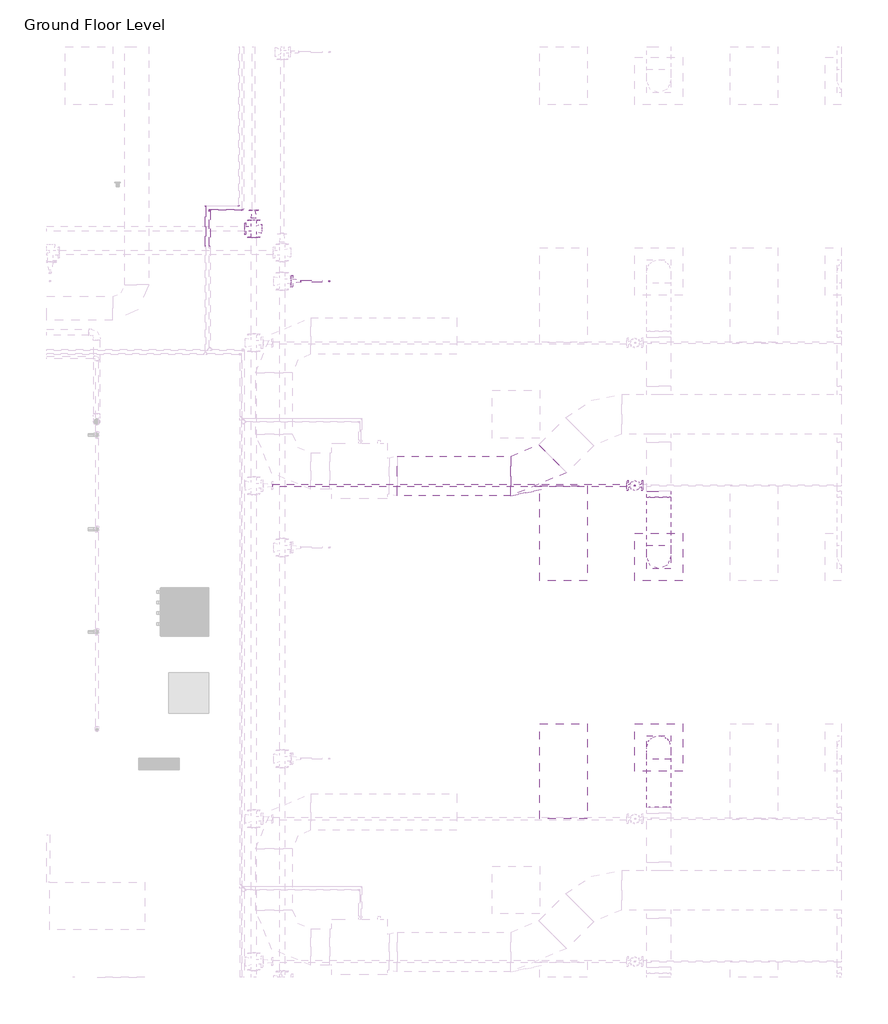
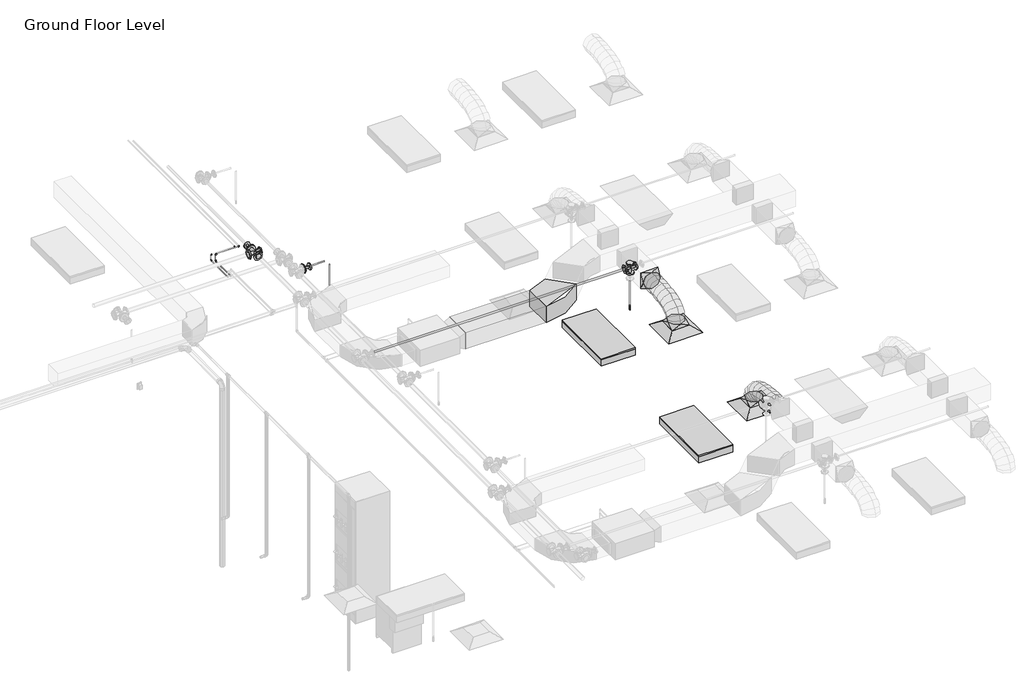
# One storey, part 68 of 74: 10 pipe fittings, 9 pipe segments, 4 duct fittings, 3 duct segments, 2 air terminals, 2 fire suppression terminals, 2 light fixtures.
"""IFC4 building model written with IfcOpenShell, lengths in millimetres."""

from ifc_helpers import new_model, si_unit, point, frame, frame_2d, origin, place, context, project, spatial, polyline, circle_curve, ellipse_curve, trimmed, segment, composite_curve, outline, extrude, transform, mapped, element, save
from ifc_brep_helpers import plane_surface, cylinder_surface, advanced_brep
from components import m_return_diffuser_600_x_600_face_300_x_300_connection_ff221211, m_rectangular_elbow_radius_1_5_w_acc56c25, m_rectangular_to_round_transition_angle_45_degree_641efff0, m_sprinkler_dry_pendent_hosted_15_mm_dry_pendent_9bda8e11, m_sprinkler_pendent_15_mm_pendent_06fcbd8e, m_troffer_light_parabolic_rectangular1_0600x1200mm_4_lamp_86473d4a, m_elbow_generic_standard_a088f956, m_elbow_generic_standard_2a704253, m_reducer_flanged_cs_class_150_standard_9dfe9ec5, m_reducer_flanged_cs_class_150_standard_a7631c35, m_tee_round_base_flanged_cs_class_150_standard_dd767e04, m_tee_round_base_flanged_cs_class_150_standard_7e5987a1

model = new_model("IFC4")

# Units and contexts
model_context = context("Model", 3, world=origin())
ifc_project = project(units=[si_unit("LENGTHUNIT", "METRE", prefix="MILLI")], contexts=[model_context])

# Site, building, storey
site = spatial("IfcSite", under=ifc_project)
building = spatial("IfcBuilding", under=site)
storey = spatial("IfcBuildingStorey", under=building, Name="Ground Floor Level", Elevation=900.0)

# Air terminals
placement = place(None, origin())
m_return_diffuser_600_x_600_face_300_x_300_connection_shape = m_return_diffuser_600_x_600_face_300_x_300_connection_ff221211(model_context)
element("IfcAirTerminal", 1, ObjectType="M_Supply Diffuser : 600 x 600 Face 300 x 300 Connection", at=placement, inside=storey, context=model_context, shape_type="MappedRepresentation", body=[
    mapped(m_return_diffuser_600_x_600_face_300_x_300_connection_shape, transform((10742.7672395, 10935.2153534, 3650.0), x_axis=(1.0, 0.0, 0.0), y_axis=(0.0, 1.0, 0.0), z_axis=(0.0, 0.0, 1.0))),
])
element("IfcAirTerminal", 2, ObjectType="M_Supply Diffuser : 600 x 600 Face 300 x 300 Connection", at=placement, inside=storey, context=model_context, shape_type="MappedRepresentation", body=[
    mapped(m_return_diffuser_600_x_600_face_300_x_300_connection_shape, transform((10742.7672395, 8535.2153534, 3650.0), x_axis=(1.0, 0.0, 0.0), y_axis=(0.0, 1.0, 0.0), z_axis=(0.0, 0.0, 1.0))),
])

# Duct fittings
m_rectangular_elbow_radius_1_5_w_shape = m_rectangular_elbow_radius_1_5_w_acc56c25(model_context)
element("IfcDuctFitting", 3, ObjectType="M_Rectangular Elbow - Radius : 1.5 W", at=placement, inside=storey, context=model_context, shape_type="MappedRepresentation", body=[
    mapped(m_rectangular_elbow_radius_1_5_w_shape, transform((9187.6927358, 11956.1779527, 4100.0047224), x_axis=(0.9999999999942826, 0.0, -3.3815582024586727e-06), y_axis=(-9.063610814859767e-12, 0.9999999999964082, -2.680306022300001e-06), z_axis=(3.3815582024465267e-06, 2.6803060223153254e-06, 0.9999999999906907))),
])
m_rectangular_to_round_transition_angle_45_degree_shape = m_rectangular_to_round_transition_angle_45_degree_641efff0(model_context)
element("IfcDuctFitting", 4, ObjectType="M_Rectangular to Round Transition - Angle : 45 Degree", at=placement, inside=storey, context=model_context, shape_type="MappedRepresentation", body=[
    mapped(m_rectangular_to_round_transition_angle_45_degree_shape, transform((10742.7672395, 8535.2153534, 3751.6), x_axis=(0.0, 0.0, 1.0), y_axis=(-1.0, 0.0, 0.0), z_axis=(0.0, -1.0, 0.0))),
])
element("IfcDuctFitting", 5, ObjectType="M_Rectangular to Round Transition - Angle : 45 Degree", at=placement, inside=storey, context=model_context, shape_type="MappedRepresentation", body=[
    mapped(m_rectangular_to_round_transition_angle_45_degree_shape, transform((10742.7672395, 10935.2153534, 3751.6), x_axis=(0.0, 0.0, 1.0), y_axis=(-1.0, 0.0, 0.0), z_axis=(0.0, -1.0, 0.0))),
])
element("IfcDuctFitting", 6, ObjectType="M_Rectangular to Round Transition - Angle : 45 Degree", at=placement, inside=storey, context=model_context, shape_type="MappedRepresentation", body=[
    mapped(m_rectangular_to_round_transition_angle_45_degree_shape, transform((10742.7672395, 11762.5512847, 4100.0), x_axis=(0.0, -1.0, 0.0), y_axis=(1.0, 0.0, 0.0), z_axis=(0.0, 0.0, 1.0))),
])

# Duct segments
element("IfcDuctSegment", 7, ObjectType="Flex - Round", at=placement, inside=storey, context=model_context, shape_type="AdvancedBrep", body=[
    advanced_brep(
    [(10892.7672395, 8535.2153534, 3826.6), (10742.7672395, 8385.2153534, 3826.6), (10592.7672395, 8535.2153534, 3826.6), (10742.7672395, 8685.2153534, 3826.6), (10892.7672395, 8535.2153534, 3857.9377114), (10742.7672395, 8385.2153534, 3832.2944892), (10592.7672395, 8535.2153534, 3857.9377114), (10742.7672395, 8685.2153534, 3883.5809337), (10892.7672395, 8518.1994208, 3906.2505728), (10742.7672395, 8384.4614419, 3834.435049), (10592.7672395, 8518.1994208, 3906.2505728), (10742.7672395, 8651.9373998, 3978.0660967), (10892.7672395, 8471.0155405, 3968.7113131), (10742.7672395, 8366.8096412, 3857.8020236), (10592.7672395, 8471.0155405, 3968.7113131), (10742.7672395, 8575.2214397, 4079.6206026), (10892.7672395, 8399.4595883, 4016.0700639), (10742.7672395, 8330.5255327, 3881.8163788), (10592.7672395, 8399.4595883, 4016.0700639), (10742.7672395, 8468.3936439, 4150.3237489), (10892.7672395, 8309.3274403, 4050.4146682), (10742.7672395, 8265.7666771, 3906.4925606), (10592.7672395, 8309.3274403, 4050.4146682), (10742.7672395, 8352.8882035, 4194.3367758), (10892.7672395, 8206.4149725, 4073.8329691), (10742.7672395, 8179.8540485, 3926.0424542), (10592.7672395, 8206.4149725, 4073.8329691), (10742.7672395, 8232.9758965, 4221.6234841), (10892.7672395, 8096.5180607, 4088.4128097), (10742.7672395, 8081.3671584, 3939.1085462), (10592.7672395, 8096.5180607, 4088.4128097), (10742.7672395, 8111.6689631, 4237.7170733), (10892.7672395, 7985.4325811, 4096.242033), (10742.7672395, 7977.9272529, 3946.398915), (10592.7672395, 7985.4325811, 4096.242033), (10742.7672395, 7992.9379093, 4246.085151), (10892.7672395, 7878.9544096, 4099.4084821), (10742.7672395, 7876.2629165, 3949.4222102), (10592.7672395, 7878.9544096, 4099.4084821), (10742.7672395, 7881.6459027, 4249.394754), (10892.7672395, 7782.8794221, 4100.0), (10742.7672395, 7783.8029299, 4249.9971571), (10592.7672395, 7782.8794221, 4100.0), (10742.7672395, 7781.9559143, 3950.0028429)],
    [
        (0, 1, circle_curve(frame((10742.7672395, 8535.2153534, 3826.6), z_axis=(0.0, 0.0, -1.0), x_axis=(1.0, 0.0, 0.0)), 150.0)),
        (1, 2, circle_curve(frame((10742.7672395, 8535.2153534, 3826.6), z_axis=(0.0, 0.0, -1.0), x_axis=(1.0, 0.0, 0.0)), 150.0)),
        (2, 3, circle_curve(frame((10742.7672395, 8535.2153534, 3826.6), z_axis=(0.0, 0.0, -1.0), x_axis=(1.0, 0.0, 0.0)), 150.0)),
        (3, 0, circle_curve(frame((10742.7672395, 8535.2153534, 3826.6), z_axis=(0.0, 0.0, -1.0), x_axis=(1.0, 0.0, 0.0)), 150.0)),
        (0, 4),
        (4, 5, ellipse_curve(frame((10742.7672395, 8535.2153534, 3857.9377114), z_axis=(0.0, 0.16851014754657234, -0.9856999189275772), x_axis=(0.0, -0.9856999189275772, -0.1685101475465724)), 152.176131, 150.0)),
        (5, 1),
        (5, 6, ellipse_curve(frame((10742.7672395, 8535.2153534, 3857.9377114), z_axis=(0.0, 0.16851014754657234, -0.9856999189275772), x_axis=(0.0, -0.9856999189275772, -0.1685101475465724)), 152.176131, 150.0)),
        (6, 2),
        (6, 7, ellipse_curve(frame((10742.7672395, 8535.2153534, 3857.9377114), z_axis=(0.0, 0.16851014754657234, -0.9856999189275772), x_axis=(0.0, -0.9856999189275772, -0.1685101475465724)), 152.176131, 150.0)),
        (7, 3),
        (7, 4, ellipse_curve(frame((10742.7672395, 8535.2153534, 3857.9377114), z_axis=(0.0, 0.16851014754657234, -0.9856999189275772), x_axis=(0.0, -0.9856999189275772, -0.1685101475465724)), 152.176131, 150.0)),
        (4, 8),
        (8, 9, ellipse_curve(frame((10742.7672395, 8518.1994208, 3906.2505728), z_axis=(0.0, 0.4730922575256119, -0.8810128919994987), x_axis=(0.0, -0.8810128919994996, -0.47309225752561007)), 151.8002519, 150.0)),
        (9, 5),
        (9, 10, ellipse_curve(frame((10742.7672395, 8518.1994208, 3906.2505728), z_axis=(0.0, 0.4730922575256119, -0.8810128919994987), x_axis=(0.0, -0.8810128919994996, -0.47309225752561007)), 151.8002519, 150.0)),
        (10, 6),
        (10, 11, ellipse_curve(frame((10742.7672395, 8518.1994208, 3906.2505728), z_axis=(0.0, 0.4730922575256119, -0.8810128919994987), x_axis=(0.0, -0.8810128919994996, -0.47309225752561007)), 151.8002519, 150.0)),
        (11, 7),
        (11, 8, ellipse_curve(frame((10742.7672395, 8518.1994208, 3906.2505728), z_axis=(0.0, 0.4730922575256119, -0.8810128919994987), x_axis=(0.0, -0.8810128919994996, -0.47309225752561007)), 151.8002519, 150.0)),
        (8, 12),
        (12, 13, ellipse_curve(frame((10742.7672395, 8471.0155405, 3968.7113131), z_axis=(0.0, 0.7287877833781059, -0.6847396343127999), x_axis=(0.0, -0.6847396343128, -0.7287877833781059)), 152.1832446, 150.0)),
        (13, 9),
        (13, 14, ellipse_curve(frame((10742.7672395, 8471.0155405, 3968.7113131), z_axis=(0.0, 0.7287877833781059, -0.6847396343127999), x_axis=(0.0, -0.6847396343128, -0.7287877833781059)), 152.1832446, 150.0)),
        (14, 10),
        (14, 15, ellipse_curve(frame((10742.7672395, 8471.0155405, 3968.7113131), z_axis=(0.0, 0.7287877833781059, -0.6847396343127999), x_axis=(0.0, -0.6847396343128, -0.7287877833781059)), 152.1832446, 150.0)),
        (15, 11),
        (15, 12, ellipse_curve(frame((10742.7672395, 8471.0155405, 3968.7113131), z_axis=(0.0, 0.7287877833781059, -0.6847396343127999), x_axis=(0.0, -0.6847396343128, -0.7287877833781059)), 152.1832446, 150.0)),
        (12, 16),
        (16, 17, ellipse_curve(frame((10742.7672395, 8399.4595883, 4016.0700639), z_axis=(0.0, 0.8895859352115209, -0.4567678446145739), x_axis=(0.0, -0.4567678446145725, -0.8895859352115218)), 150.91705, 150.0)),
        (17, 13),
        (17, 18, ellipse_curve(frame((10742.7672395, 8399.4595883, 4016.0700639), z_axis=(0.0, 0.8895859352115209, -0.4567678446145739), x_axis=(0.0, -0.4567678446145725, -0.8895859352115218)), 150.91705, 150.0)),
        (18, 14),
        (18, 19, ellipse_curve(frame((10742.7672395, 8399.4595883, 4016.0700639), z_axis=(0.0, 0.8895859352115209, -0.4567678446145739), x_axis=(0.0, -0.4567678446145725, -0.8895859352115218)), 150.91705, 150.0)),
        (19, 15),
        (19, 16, ellipse_curve(frame((10742.7672395, 8399.4595883, 4016.0700639), z_axis=(0.0, 0.8895859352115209, -0.4567678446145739), x_axis=(0.0, -0.4567678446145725, -0.8895859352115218)), 150.91705, 150.0)),
        (16, 20),
        (20, 21, ellipse_curve(frame((10742.7672395, 8309.3274403, 4050.4146682), z_axis=(0.0, 0.9571203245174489, -0.2896906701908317), x_axis=(0.0, -0.2896906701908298, -0.9571203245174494)), 150.369921, 150.0)),
        (21, 17),
        (21, 22, ellipse_curve(frame((10742.7672395, 8309.3274403, 4050.4146682), z_axis=(0.0, 0.9571203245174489, -0.2896906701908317), x_axis=(0.0, -0.2896906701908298, -0.9571203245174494)), 150.369921, 150.0)),
        (22, 18),
        (22, 23, ellipse_curve(frame((10742.7672395, 8309.3274403, 4050.4146682), z_axis=(0.0, 0.9571203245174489, -0.2896906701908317), x_axis=(0.0, -0.2896906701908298, -0.9571203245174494)), 150.369921, 150.0)),
        (23, 19),
        (23, 20, ellipse_curve(frame((10742.7672395, 8309.3274403, 4050.4146682), z_axis=(0.0, 0.9571203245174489, -0.2896906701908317), x_axis=(0.0, -0.2896906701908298, -0.9571203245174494)), 150.369921, 150.0)),
        (20, 24),
        (24, 25, ellipse_curve(frame((10742.7672395, 8206.4149725, 4073.8329691), z_axis=(0.0, 0.9842313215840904, -0.1768861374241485), x_axis=(0.0, -0.17688613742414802, -0.9842313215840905)), 150.1583131, 150.0)),
        (25, 21),
        (25, 26, ellipse_curve(frame((10742.7672395, 8206.4149725, 4073.8329691), z_axis=(0.0, 0.9842313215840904, -0.1768861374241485), x_axis=(0.0, -0.17688613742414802, -0.9842313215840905)), 150.1583131, 150.0)),
        (26, 22),
        (26, 27, ellipse_curve(frame((10742.7672395, 8206.4149725, 4073.8329691), z_axis=(0.0, 0.9842313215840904, -0.1768861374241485), x_axis=(0.0, -0.17688613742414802, -0.9842313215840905)), 150.1583131, 150.0)),
        (27, 23),
        (27, 24, ellipse_curve(frame((10742.7672395, 8206.4149725, 4073.8329691), z_axis=(0.0, 0.9842313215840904, -0.1768861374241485), x_axis=(0.0, -0.17688613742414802, -0.9842313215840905)), 150.1583131, 150.0)),
        (24, 28),
        (28, 29, ellipse_curve(frame((10742.7672395, 8096.5180607, 4088.4128097), z_axis=(0.0, 0.9948906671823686, -0.10095821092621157), x_axis=(0.0, -0.100958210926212, -0.9948906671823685)), 150.0710264, 150.0)),
        (29, 25),
        (29, 30, ellipse_curve(frame((10742.7672395, 8096.5180607, 4088.4128097), z_axis=(0.0, 0.9948906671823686, -0.10095821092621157), x_axis=(0.0, -0.100958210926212, -0.9948906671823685)), 150.0710264, 150.0)),
        (30, 26),
        (30, 31, ellipse_curve(frame((10742.7672395, 8096.5180607, 4088.4128097), z_axis=(0.0, 0.9948906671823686, -0.10095821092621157), x_axis=(0.0, -0.100958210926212, -0.9948906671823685)), 150.0710264, 150.0)),
        (31, 27),
        (31, 28, ellipse_curve(frame((10742.7672395, 8096.5180607, 4088.4128097), z_axis=(0.0, 0.9948906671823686, -0.10095821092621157), x_axis=(0.0, -0.100958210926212, -0.9948906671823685)), 150.0710264, 150.0)),
        (28, 32),
        (32, 33, ellipse_curve(frame((10742.7672395, 7985.4325811, 4096.242033), z_axis=(0.0, 0.9987479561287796, -0.05002519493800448), x_axis=(0.0, -0.050025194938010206, -0.9987479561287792)), 150.0309634, 150.0)),
        (33, 29),
        (33, 34, ellipse_curve(frame((10742.7672395, 7985.4325811, 4096.242033), z_axis=(0.0, 0.9987479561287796, -0.05002519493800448), x_axis=(0.0, -0.050025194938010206, -0.9987479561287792)), 150.0309634, 150.0)),
        (34, 30),
        (34, 35, ellipse_curve(frame((10742.7672395, 7985.4325811, 4096.242033), z_axis=(0.0, 0.9987479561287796, -0.05002519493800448), x_axis=(0.0, -0.050025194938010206, -0.9987479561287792)), 150.0309634, 150.0)),
        (35, 31),
        (35, 32, ellipse_curve(frame((10742.7672395, 7985.4325811, 4096.242033), z_axis=(0.0, 0.9987479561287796, -0.05002519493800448), x_axis=(0.0, -0.050025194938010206, -0.9987479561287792)), 150.0309634, 150.0)),
        (32, 36),
        (36, 37, ellipse_curve(frame((10742.7672395, 7878.9544096, 4099.4084821), z_axis=(0.0, 0.9998390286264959, -0.017942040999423), x_axis=(0.0, -0.01794204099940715, -0.9998390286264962)), 150.0104193, 150.0)),
        (37, 33),
        (37, 38, ellipse_curve(frame((10742.7672395, 7878.9544096, 4099.4084821), z_axis=(0.0, 0.9998390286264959, -0.017942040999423), x_axis=(0.0, -0.01794204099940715, -0.9998390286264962)), 150.0104193, 150.0)),
        (38, 34),
        (38, 39, ellipse_curve(frame((10742.7672395, 7878.9544096, 4099.4084821), z_axis=(0.0, 0.9998390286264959, -0.017942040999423), x_axis=(0.0, -0.01794204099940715, -0.9998390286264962)), 150.0104193, 150.0)),
        (39, 35),
        (39, 36, ellipse_curve(frame((10742.7672395, 7878.9544096, 4099.4084821), z_axis=(0.0, 0.9998390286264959, -0.017942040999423), x_axis=(0.0, -0.01794204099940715, -0.9998390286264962)), 150.0104193, 150.0)),
        (40, 41, circle_curve(frame((10742.7672395, 7782.8794221, 4100.0), z_axis=(0.0, -0.9999810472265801, 0.006156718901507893), x_axis=(1.0, 0.0, 0.0)), 150.0)),
        (41, 42, circle_curve(frame((10742.7672395, 7782.8794221, 4100.0), z_axis=(0.0, -0.9999810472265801, 0.006156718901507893), x_axis=(1.0, 0.0, 0.0)), 150.0)),
        (42, 43, circle_curve(frame((10742.7672395, 7782.8794221, 4100.0), z_axis=(0.0, -0.9999810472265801, 0.006156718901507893), x_axis=(1.0, 0.0, 0.0)), 150.0)),
        (43, 40, circle_curve(frame((10742.7672395, 7782.8794221, 4100.0), z_axis=(0.0, -0.9999810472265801, 0.006156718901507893), x_axis=(1.0, 0.0, 0.0)), 150.0)),
        (36, 40),
        (43, 37),
        (42, 38),
        (41, 39),
    ],
    [
        plane_surface(frame((10742.7672395, 8385.2153534, 3826.6), z_axis=(0.0, 0.0, -1.0), x_axis=(1.0, 0.0, 0.0))),
        cylinder_surface(frame((10742.7672395, 8535.2153534, 3826.6), z_axis=(0.0, 0.0, -1.0), x_axis=(1.0, 0.0, 0.0)), 150.0),
        cylinder_surface(frame((10742.7672395, 8535.2153534, 3857.9377114), z_axis=(0.0, 0.3322008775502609, -0.9432086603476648), x_axis=(1.0, 0.0, 0.0)), 150.0),
        cylinder_surface(frame((10742.7672395, 8518.1994208, 3906.2505728), z_axis=(0.0, 0.6027625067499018, -0.7979206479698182), x_axis=(1.0, 0.0, 0.0)), 150.0),
        cylinder_surface(frame((10742.7672395, 8471.0155405, 3968.7113131), z_axis=(0.0, 0.8339024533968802, -0.5519118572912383), x_axis=(1.0, 0.0, 0.0)), 150.0),
        cylinder_surface(frame((10742.7672395, 8399.4595883, 4016.0700639), z_axis=(0.0, 0.934458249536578, -0.35607271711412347), x_axis=(1.0, 0.0, 0.0)), 150.0),
        cylinder_surface(frame((10742.7672395, 8309.3274403, 4050.4146682), z_axis=(0.0, 0.9750732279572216, -0.2218833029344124), x_axis=(1.0, 0.0, 0.0)), 150.0),
        cylinder_surface(frame((10742.7672395, 8206.4149725, 4073.8329691), z_axis=(0.0, 0.9913140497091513, -0.13151598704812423), x_axis=(1.0, 0.0, 0.0)), 150.0),
        cylinder_surface(frame((10742.7672395, 8096.5180607, 4088.4128097), z_axis=(0.0, 0.9975255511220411, -0.07030487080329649), x_axis=(1.0, 0.0, 0.0)), 150.0),
        cylinder_surface(frame((10742.7672395, 7985.4325811, 4096.242033), z_axis=(0.0, 0.9995581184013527, -0.029724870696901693), x_axis=(1.0, 0.0, 0.0)), 150.0),
        plane_surface(frame((10742.7672395, 7781.9559143, 3950.0028429), z_axis=(0.0, -0.9999810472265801, 0.0061567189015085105), x_axis=(1.0, 0.0, 0.0))),
        cylinder_surface(frame((10742.7672395, 7878.9544096, 4099.4084821), z_axis=(0.0, 0.9999810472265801, -0.006156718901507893), x_axis=(1.0, 0.0, 0.0)), 150.0),
    ],
    [
        (0, [[1, 2, 3, 4]]),
        (1, [[-1, 5, 6, 7]]),
        (1, [[-2, -7, 8, 9]]),
        (1, [[-3, -9, 10, 11]]),
        (1, [[-4, -11, 12, -5]]),
        (2, [[-6, 13, 14, 15]]),
        (2, [[-8, -15, 16, 17]]),
        (2, [[-10, -17, 18, 19]]),
        (2, [[-12, -19, 20, -13]]),
        (3, [[-14, 21, 22, 23]]),
        (3, [[-16, -23, 24, 25]]),
        (3, [[-18, -25, 26, 27]]),
        (3, [[-20, -27, 28, -21]]),
        (4, [[-22, 29, 30, 31]]),
        (4, [[-24, -31, 32, 33]]),
        (4, [[-26, -33, 34, 35]]),
        (4, [[-28, -35, 36, -29]]),
        (5, [[-30, 37, 38, 39]]),
        (5, [[-32, -39, 40, 41]]),
        (5, [[-34, -41, 42, 43]]),
        (5, [[-36, -43, 44, -37]]),
        (6, [[-38, 45, 46, 47]]),
        (6, [[-40, -47, 48, 49]]),
        (6, [[-42, -49, 50, 51]]),
        (6, [[-44, -51, 52, -45]]),
        (7, [[-46, 53, 54, 55]]),
        (7, [[-48, -55, 56, 57]]),
        (7, [[-50, -57, 58, 59]]),
        (7, [[-52, -59, 60, -53]]),
        (8, [[-54, 61, 62, 63]]),
        (8, [[-56, -63, 64, 65]]),
        (8, [[-58, -65, 66, 67]]),
        (8, [[-60, -67, 68, -61]]),
        (9, [[-62, 69, 70, 71]]),
        (9, [[-64, -71, 72, 73]]),
        (9, [[-66, -73, 74, 75]]),
        (9, [[-68, -75, 76, -69]]),
        (10, [[77, 78, 79, 80]]),
        (11, [[-70, 81, -80, 82]]),
        (11, [[-72, -82, -79, 83]]),
        (11, [[-74, -83, -78, 84]]),
        (11, [[-76, -84, -77, -81]]),
    ],
),
])
element("IfcDuctSegment", 8, ObjectType="Flex - Round", at=placement, inside=storey, context=model_context, shape_type="AdvancedBrep", body=[
    advanced_brep(
    [(10892.7672395, 10935.2153534, 3826.6), (10742.7672395, 10785.2153534, 3826.6), (10592.7672395, 10935.2153534, 3826.6), (10742.7672395, 11085.2153534, 3826.6), (10892.7672395, 10935.2153534, 3857.9377114), (10742.7672395, 10785.2153534, 3883.5809337), (10592.7672395, 10935.2153534, 3857.9377114), (10742.7672395, 11085.2153534, 3832.2944892), (10892.7672395, 10952.2312859, 3906.2505728), (10742.7672395, 10818.493307, 3978.0660967), (10592.7672395, 10952.2312859, 3906.2505728), (10742.7672395, 11085.9692649, 3834.435049), (10892.7672395, 10999.4151663, 3968.7113131), (10742.7672395, 10895.209267, 4079.6206026), (10592.7672395, 10999.4151663, 3968.7113131), (10742.7672395, 11103.6210655, 3857.8020236), (10892.7672395, 11070.9711184, 4016.0700639), (10742.7672395, 11002.0370628, 4150.3237489), (10592.7672395, 11070.9711184, 4016.0700639), (10742.7672395, 11139.9051741, 3881.8163788), (10892.7672395, 11161.1032664, 4050.4146682), (10742.7672395, 11117.5425033, 4194.3367758), (10592.7672395, 11161.1032664, 4050.4146682), (10742.7672395, 11204.6640296, 3906.4925606), (10892.7672395, 11264.0157343, 4073.8329691), (10742.7672395, 11237.4548103, 4221.6234841), (10592.7672395, 11264.0157343, 4073.8329691), (10742.7672395, 11290.5766583, 3926.0424542), (10892.7672395, 11373.912646, 4088.4128097), (10742.7672395, 11358.7617437, 4237.7170733), (10592.7672395, 11373.912646, 4088.4128097), (10742.7672395, 11389.0635483, 3939.1085462), (10892.7672395, 11484.9981256, 4096.242033), (10742.7672395, 11477.4927975, 4246.085151), (10592.7672395, 11484.9981256, 4096.242033), (10742.7672395, 11492.5034538, 3946.398915), (10892.7672395, 11591.4762972, 4099.4084821), (10742.7672395, 11588.7848041, 4249.394754), (10592.7672395, 11591.4762972, 4099.4084821), (10742.7672395, 11594.1677903, 3949.4222102), (10892.7672395, 11687.5512847, 4100.0), (10742.7672395, 11688.4747925, 3950.0028429), (10592.7672395, 11687.5512847, 4100.0), (10742.7672395, 11686.6277768, 4249.9971571)],
    [
        (0, 1, circle_curve(frame((10742.7672395, 10935.2153534, 3826.6), z_axis=(0.0, 0.0, -1.0), x_axis=(1.0, 0.0, 0.0)), 150.0)),
        (1, 2, circle_curve(frame((10742.7672395, 10935.2153534, 3826.6), z_axis=(0.0, 0.0, -1.0), x_axis=(1.0, 0.0, 0.0)), 150.0)),
        (2, 3, circle_curve(frame((10742.7672395, 10935.2153534, 3826.6), z_axis=(0.0, 0.0, -1.0), x_axis=(1.0, 0.0, 0.0)), 150.0)),
        (3, 0, circle_curve(frame((10742.7672395, 10935.2153534, 3826.6), z_axis=(0.0, 0.0, -1.0), x_axis=(1.0, 0.0, 0.0)), 150.0)),
        (0, 4),
        (4, 5, ellipse_curve(frame((10742.7672395, 10935.2153534, 3857.9377114), z_axis=(0.0, -0.16851014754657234, -0.9856999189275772), x_axis=(0.0, 0.9856999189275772, -0.1685101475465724)), 152.176131, 150.0)),
        (5, 1),
        (5, 6, ellipse_curve(frame((10742.7672395, 10935.2153534, 3857.9377114), z_axis=(0.0, -0.16851014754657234, -0.9856999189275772), x_axis=(0.0, 0.9856999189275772, -0.1685101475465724)), 152.176131, 150.0)),
        (6, 2),
        (6, 7, ellipse_curve(frame((10742.7672395, 10935.2153534, 3857.9377114), z_axis=(0.0, -0.16851014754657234, -0.9856999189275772), x_axis=(0.0, 0.9856999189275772, -0.1685101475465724)), 152.176131, 150.0)),
        (7, 3),
        (7, 4, ellipse_curve(frame((10742.7672395, 10935.2153534, 3857.9377114), z_axis=(0.0, -0.16851014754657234, -0.9856999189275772), x_axis=(0.0, 0.9856999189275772, -0.1685101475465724)), 152.176131, 150.0)),
        (4, 8),
        (8, 9, ellipse_curve(frame((10742.7672395, 10952.2312859, 3906.2505728), z_axis=(0.0, -0.47309225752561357, -0.8810128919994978), x_axis=(0.0, 0.8810128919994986, -0.47309225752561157)), 151.8002519, 150.0)),
        (9, 5),
        (9, 10, ellipse_curve(frame((10742.7672395, 10952.2312859, 3906.2505728), z_axis=(0.0, -0.47309225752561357, -0.8810128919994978), x_axis=(0.0, 0.8810128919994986, -0.47309225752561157)), 151.8002519, 150.0)),
        (10, 6),
        (10, 11, ellipse_curve(frame((10742.7672395, 10952.2312859, 3906.2505728), z_axis=(0.0, -0.47309225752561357, -0.8810128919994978), x_axis=(0.0, 0.8810128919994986, -0.47309225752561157)), 151.8002519, 150.0)),
        (11, 7),
        (11, 8, ellipse_curve(frame((10742.7672395, 10952.2312859, 3906.2505728), z_axis=(0.0, -0.47309225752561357, -0.8810128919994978), x_axis=(0.0, 0.8810128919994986, -0.47309225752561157)), 151.8002519, 150.0)),
        (8, 12),
        (12, 13, ellipse_curve(frame((10742.7672395, 10999.4151663, 3968.7113131), z_axis=(0.0, -0.7287877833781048, -0.6847396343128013), x_axis=(0.0, 0.6847396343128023, -0.7287877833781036)), 152.1832446, 150.0)),
        (13, 9),
        (13, 14, ellipse_curve(frame((10742.7672395, 10999.4151663, 3968.7113131), z_axis=(0.0, -0.7287877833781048, -0.6847396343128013), x_axis=(0.0, 0.6847396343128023, -0.7287877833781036)), 152.1832446, 150.0)),
        (14, 10),
        (14, 15, ellipse_curve(frame((10742.7672395, 10999.4151663, 3968.7113131), z_axis=(0.0, -0.7287877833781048, -0.6847396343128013), x_axis=(0.0, 0.6847396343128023, -0.7287877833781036)), 152.1832446, 150.0)),
        (15, 11),
        (15, 12, ellipse_curve(frame((10742.7672395, 10999.4151663, 3968.7113131), z_axis=(0.0, -0.7287877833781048, -0.6847396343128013), x_axis=(0.0, 0.6847396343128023, -0.7287877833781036)), 152.1832446, 150.0)),
        (12, 16),
        (16, 17, ellipse_curve(frame((10742.7672395, 11070.9711184, 4016.0700639), z_axis=(0.0, -0.8895859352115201, -0.45676784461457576), x_axis=(0.0, 0.45676784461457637, -0.8895859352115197)), 150.91705, 150.0)),
        (17, 13),
        (17, 18, ellipse_curve(frame((10742.7672395, 11070.9711184, 4016.0700639), z_axis=(0.0, -0.8895859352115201, -0.45676784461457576), x_axis=(0.0, 0.45676784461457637, -0.8895859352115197)), 150.91705, 150.0)),
        (18, 14),
        (18, 19, ellipse_curve(frame((10742.7672395, 11070.9711184, 4016.0700639), z_axis=(0.0, -0.8895859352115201, -0.45676784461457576), x_axis=(0.0, 0.45676784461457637, -0.8895859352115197)), 150.91705, 150.0)),
        (19, 15),
        (19, 16, ellipse_curve(frame((10742.7672395, 11070.9711184, 4016.0700639), z_axis=(0.0, -0.8895859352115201, -0.45676784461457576), x_axis=(0.0, 0.45676784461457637, -0.8895859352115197)), 150.91705, 150.0)),
        (16, 20),
        (20, 21, ellipse_curve(frame((10742.7672395, 11161.1032664, 4050.4146682), z_axis=(0.0, -0.9571203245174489, -0.2896906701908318), x_axis=(0.0, 0.28969067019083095, -0.9571203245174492)), 150.369921, 150.0)),
        (21, 17),
        (21, 22, ellipse_curve(frame((10742.7672395, 11161.1032664, 4050.4146682), z_axis=(0.0, -0.9571203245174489, -0.2896906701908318), x_axis=(0.0, 0.28969067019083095, -0.9571203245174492)), 150.369921, 150.0)),
        (22, 18),
        (22, 23, ellipse_curve(frame((10742.7672395, 11161.1032664, 4050.4146682), z_axis=(0.0, -0.9571203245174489, -0.2896906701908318), x_axis=(0.0, 0.28969067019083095, -0.9571203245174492)), 150.369921, 150.0)),
        (23, 19),
        (23, 20, ellipse_curve(frame((10742.7672395, 11161.1032664, 4050.4146682), z_axis=(0.0, -0.9571203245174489, -0.2896906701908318), x_axis=(0.0, 0.28969067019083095, -0.9571203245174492)), 150.369921, 150.0)),
        (20, 24),
        (24, 25, ellipse_curve(frame((10742.7672395, 11264.0157343, 4073.8329691), z_axis=(0.0, -0.9842313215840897, -0.17688613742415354), x_axis=(0.0, 0.1768861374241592, -0.9842313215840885)), 150.1583131, 150.0)),
        (25, 21),
        (25, 26, ellipse_curve(frame((10742.7672395, 11264.0157343, 4073.8329691), z_axis=(0.0, -0.9842313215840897, -0.17688613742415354), x_axis=(0.0, 0.1768861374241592, -0.9842313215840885)), 150.1583131, 150.0)),
        (26, 22),
        (26, 27, ellipse_curve(frame((10742.7672395, 11264.0157343, 4073.8329691), z_axis=(0.0, -0.9842313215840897, -0.17688613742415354), x_axis=(0.0, 0.1768861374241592, -0.9842313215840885)), 150.1583131, 150.0)),
        (27, 23),
        (27, 24, ellipse_curve(frame((10742.7672395, 11264.0157343, 4073.8329691), z_axis=(0.0, -0.9842313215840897, -0.17688613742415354), x_axis=(0.0, 0.1768861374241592, -0.9842313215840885)), 150.1583131, 150.0)),
        (24, 28),
        (28, 29, ellipse_curve(frame((10742.7672395, 11373.912646, 4088.4128097), z_axis=(0.0, -0.9948906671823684, -0.10095821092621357), x_axis=(0.0, 0.10095821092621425, -0.9948906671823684)), 150.0710264, 150.0)),
        (29, 25),
        (29, 30, ellipse_curve(frame((10742.7672395, 11373.912646, 4088.4128097), z_axis=(0.0, -0.9948906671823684, -0.10095821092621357), x_axis=(0.0, 0.10095821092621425, -0.9948906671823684)), 150.0710264, 150.0)),
        (30, 26),
        (30, 31, ellipse_curve(frame((10742.7672395, 11373.912646, 4088.4128097), z_axis=(0.0, -0.9948906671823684, -0.10095821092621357), x_axis=(0.0, 0.10095821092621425, -0.9948906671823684)), 150.0710264, 150.0)),
        (31, 27),
        (31, 28, ellipse_curve(frame((10742.7672395, 11373.912646, 4088.4128097), z_axis=(0.0, -0.9948906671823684, -0.10095821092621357), x_axis=(0.0, 0.10095821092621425, -0.9948906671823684)), 150.0710264, 150.0)),
        (28, 32),
        (32, 33, ellipse_curve(frame((10742.7672395, 11484.9981256, 4096.242033), z_axis=(0.0, -0.9987479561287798, -0.05002519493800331), x_axis=(0.0, 0.050025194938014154, -0.9987479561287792)), 150.0309634, 150.0)),
        (33, 29),
        (33, 34, ellipse_curve(frame((10742.7672395, 11484.9981256, 4096.242033), z_axis=(0.0, -0.9987479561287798, -0.05002519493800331), x_axis=(0.0, 0.050025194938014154, -0.9987479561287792)), 150.0309634, 150.0)),
        (34, 30),
        (34, 35, ellipse_curve(frame((10742.7672395, 11484.9981256, 4096.242033), z_axis=(0.0, -0.9987479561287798, -0.05002519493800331), x_axis=(0.0, 0.050025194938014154, -0.9987479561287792)), 150.0309634, 150.0)),
        (35, 31),
        (35, 32, ellipse_curve(frame((10742.7672395, 11484.9981256, 4096.242033), z_axis=(0.0, -0.9987479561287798, -0.05002519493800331), x_axis=(0.0, 0.050025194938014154, -0.9987479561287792)), 150.0309634, 150.0)),
        (32, 36),
        (36, 37, ellipse_curve(frame((10742.7672395, 11591.4762972, 4099.4084821), z_axis=(0.0, -0.9998390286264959, -0.01794204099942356), x_axis=(-1.8187895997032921e-12, 0.017942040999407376, -0.9998390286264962)), 150.0104193, 150.0)),
        (37, 33),
        (37, 38, ellipse_curve(frame((10742.7672395, 11591.4762972, 4099.4084821), z_axis=(0.0, -0.9998390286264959, -0.01794204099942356), x_axis=(-1.8187895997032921e-12, 0.017942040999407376, -0.9998390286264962)), 150.0104193, 150.0)),
        (38, 34),
        (38, 39, ellipse_curve(frame((10742.7672395, 11591.4762972, 4099.4084821), z_axis=(0.0, -0.9998390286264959, -0.01794204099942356), x_axis=(-1.8187895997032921e-12, 0.017942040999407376, -0.9998390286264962)), 150.0104193, 150.0)),
        (39, 35),
        (39, 36, ellipse_curve(frame((10742.7672395, 11591.4762972, 4099.4084821), z_axis=(0.0, -0.9998390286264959, -0.01794204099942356), x_axis=(-1.8187895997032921e-12, 0.017942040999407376, -0.9998390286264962)), 150.0104193, 150.0)),
        (40, 41, circle_curve(frame((10742.7672395, 11687.5512847, 4100.0), z_axis=(0.0, 0.9999810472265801, 0.006156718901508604), x_axis=(1.0, 0.0, 0.0)), 150.0)),
        (41, 42, circle_curve(frame((10742.7672395, 11687.5512847, 4100.0), z_axis=(0.0, 0.9999810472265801, 0.006156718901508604), x_axis=(1.0, 0.0, 0.0)), 150.0)),
        (42, 43, circle_curve(frame((10742.7672395, 11687.5512847, 4100.0), z_axis=(0.0, 0.9999810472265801, 0.006156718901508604), x_axis=(1.0, 0.0, 0.0)), 150.0)),
        (43, 40, circle_curve(frame((10742.7672395, 11687.5512847, 4100.0), z_axis=(0.0, 0.9999810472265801, 0.006156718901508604), x_axis=(1.0, 0.0, 0.0)), 150.0)),
        (36, 40),
        (43, 37),
        (42, 38),
        (41, 39),
    ],
    [
        plane_surface(frame((10742.7672395, 10785.2153534, 3826.6), z_axis=(0.0, 0.0, -1.0), x_axis=(1.0, 0.0, 0.0))),
        cylinder_surface(frame((10742.7672395, 10935.2153534, 3826.6), z_axis=(0.0, 0.0, -1.0), x_axis=(1.0, 0.0, 0.0)), 150.0),
        cylinder_surface(frame((10742.7672395, 10935.2153534, 3857.9377114), z_axis=(0.0, -0.3322008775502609, -0.9432086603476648), x_axis=(1.0, 0.0, 0.0)), 150.0),
        cylinder_surface(frame((10742.7672395, 10952.2312859, 3906.2505728), z_axis=(0.0, -0.6027625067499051, -0.7979206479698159), x_axis=(1.0, 0.0, 0.0)), 150.0),
        cylinder_surface(frame((10742.7672395, 10999.4151663, 3968.7113131), z_axis=(0.0, -0.833902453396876, -0.5519118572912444), x_axis=(1.0, 0.0, 0.0)), 150.0),
        cylinder_surface(frame((10742.7672395, 11070.9711184, 4016.0700639), z_axis=(0.0, -0.9344582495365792, -0.35607271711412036), x_axis=(1.0, 0.0, 0.0)), 150.0),
        cylinder_surface(frame((10742.7672395, 11161.1032664, 4050.4146682), z_axis=(0.0, -0.9750732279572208, -0.22188330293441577), x_axis=(1.0, 0.0, 0.0)), 150.0),
        cylinder_surface(frame((10742.7672395, 11264.0157343, 4073.8329691), z_axis=(0.0, -0.9913140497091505, -0.131515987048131), x_axis=(1.0, 0.0, 0.0)), 150.0),
        cylinder_surface(frame((10742.7672395, 11373.912646, 4088.4128097), z_axis=(0.0, -0.9975255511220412, -0.07030487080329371), x_axis=(1.0, 0.0, 0.0)), 150.0),
        cylinder_surface(frame((10742.7672395, 11484.9981256, 4096.242033), z_axis=(0.0, -0.9995581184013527, -0.029724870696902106), x_axis=(1.0, 0.0, 0.0)), 150.0),
        plane_surface(frame((10742.7672395, 11686.6277768, 4249.9971571), z_axis=(0.0, 0.9999810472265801, 0.0061567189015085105), x_axis=(1.0, 0.0, 0.0))),
        cylinder_surface(frame((10742.7672395, 11591.4762972, 4099.4084821), z_axis=(0.0, -0.9999810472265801, -0.006156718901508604), x_axis=(1.0, 0.0, 0.0)), 150.0),
    ],
    [
        (0, [[1, 2, 3, 4]]),
        (1, [[-1, 5, 6, 7]]),
        (1, [[-2, -7, 8, 9]]),
        (1, [[-3, -9, 10, 11]]),
        (1, [[-4, -11, 12, -5]]),
        (2, [[-6, 13, 14, 15]]),
        (2, [[-8, -15, 16, 17]]),
        (2, [[-10, -17, 18, 19]]),
        (2, [[-12, -19, 20, -13]]),
        (3, [[-14, 21, 22, 23]]),
        (3, [[-16, -23, 24, 25]]),
        (3, [[-18, -25, 26, 27]]),
        (3, [[-20, -27, 28, -21]]),
        (4, [[-22, 29, 30, 31]]),
        (4, [[-24, -31, 32, 33]]),
        (4, [[-26, -33, 34, 35]]),
        (4, [[-28, -35, 36, -29]]),
        (5, [[-30, 37, 38, 39]]),
        (5, [[-32, -39, 40, 41]]),
        (5, [[-34, -41, 42, 43]]),
        (5, [[-36, -43, 44, -37]]),
        (6, [[-38, 45, 46, 47]]),
        (6, [[-40, -47, 48, 49]]),
        (6, [[-42, -49, 50, 51]]),
        (6, [[-44, -51, 52, -45]]),
        (7, [[-46, 53, 54, 55]]),
        (7, [[-48, -55, 56, 57]]),
        (7, [[-50, -57, 58, 59]]),
        (7, [[-52, -59, 60, -53]]),
        (8, [[-54, 61, 62, 63]]),
        (8, [[-56, -63, 64, 65]]),
        (8, [[-58, -65, 66, 67]]),
        (8, [[-60, -67, 68, -61]]),
        (9, [[-62, 69, 70, 71]]),
        (9, [[-64, -71, 72, 73]]),
        (9, [[-66, -73, 74, 75]]),
        (9, [[-68, -75, 76, -69]]),
        (10, [[77, 78, 79, 80]]),
        (11, [[-70, 81, -80, 82]]),
        (11, [[-72, -82, -79, 83]]),
        (11, [[-74, -83, -78, 84]]),
        (11, [[-76, -84, -77, -81]]),
    ],
),
])
element("IfcDuctSegment", 9, ObjectType="Radius Elbows / Taps", at=placement, inside=storey, context=model_context, shape_type="SweptSolid", body=[
    extrude(outline(polyline([(7447.693178, 11706.1779527), (7447.693178, 12206.1779527), (8877.032564, 12206.1779527), (8877.032564, 11706.1779527), (7447.693178, 11706.1779527)])), frame((0.0, 0.0, 3950.0057729), z_axis=(0.0, 0.0, 1.0), x_axis=(1.0, 0.0, 0.0)), (0.0, 0.0, 1.0), 300.0),
])

# Fire suppression terminals
m_sprinkler_dry_pendent_hosted_15_mm_dry_pendent_shape = m_sprinkler_dry_pendent_hosted_15_mm_dry_pendent_9bda8e11(model_context)
element("IfcFireSuppressionTerminal", 10, ObjectType="M_Sprinkler - Dry - Pendent - Hosted : 15 mm Dry Pendent", at=placement, inside=storey, context=model_context, shape_type="MappedRepresentation", body=[
    mapped(m_sprinkler_dry_pendent_hosted_15_mm_dry_pendent_shape, transform((10442.7672395, 11835.2153534, 3650.0), x_axis=(1.0, 0.0, 0.0), y_axis=(0.0, -1.0, 0.0), z_axis=(0.0, 0.0, -1.0))),
])
m_sprinkler_pendent_15_mm_pendent_shape = m_sprinkler_pendent_15_mm_pendent_06fcbd8e(model_context)
element("IfcFireSuppressionTerminal", 11, ObjectType="M_Sprinkler - Pendent : 15 mm Pendent", at=placement, inside=storey, context=model_context, shape_type="MappedRepresentation", body=[
    mapped(m_sprinkler_pendent_15_mm_pendent_shape, transform((6592.5481019, 14412.7243649, 3650.0), x_axis=(1.0, 0.0, 0.0), y_axis=(0.0, 1.0, 0.0), z_axis=(0.0, 0.0, 1.0))),
])

# Light fixtures
m_troffer_light_parabolic_rectangular1_0600x1200mm_4_lamp_shape = m_troffer_light_parabolic_rectangular1_0600x1200mm_4_lamp_86473d4a(model_context)
element("IfcLightFixture", 12, ObjectType="M_Troffer Light - Parabolic Rectangular1 : 0600x1200mm(4 Lamp) - 277V 2", at=placement, inside=storey, context=model_context, shape_type="MappedRepresentation", body=[
    mapped(m_troffer_light_parabolic_rectangular1_0600x1200mm_4_lamp_shape, transform((9483.3013074, 11253.918855, 3650.0), x_axis=(0.0, 1.0, 0.0), y_axis=(-1.0, 0.0, 0.0), z_axis=(0.0, 0.0, 1.0))),
])
element("IfcLightFixture", 13, ObjectType="M_Troffer Light - Parabolic Rectangular1 : 0600x1200mm(4 Lamp) - 277V 2", at=placement, inside=storey, context=model_context, shape_type="MappedRepresentation", body=[
    mapped(m_troffer_light_parabolic_rectangular1_0600x1200mm_4_lamp_shape, transform((9483.3013074, 8253.9188549, 3650.0), x_axis=(0.0, 1.0, 0.0), y_axis=(-1.0, 0.0, 0.0), z_axis=(0.0, 0.0, 1.0))),
])

# Pipe fittings
m_elbow_generic_standard_shape = m_elbow_generic_standard_a088f956(model_context)
element("IfcPipeFitting", 14, ObjectType="M_Elbow - Generic : Standard", at=placement, inside=storey, context=model_context, shape_type="MappedRepresentation", body=[
    mapped(m_elbow_generic_standard_shape, transform((5079.6672395, 15310.9278534, 4380.0), x_axis=(-1.0, 0.0, 0.0), y_axis=(0.0, 0.0, -1.0), z_axis=(0.0, -1.0, 0.0))),
])
element("IfcPipeFitting", 15, ObjectType="M_Elbow - Generic : Standard", at=placement, inside=storey, context=model_context, shape_type="MappedRepresentation", body=[
    mapped(m_elbow_generic_standard_shape, transform((5079.6672395, 15310.9278534, 4250.0), x_axis=(0.0, 0.0, -1.0), y_axis=(0.0, -1.0, 0.0), z_axis=(-1.0, 0.0, 0.0))),
])
element("IfcPipeFitting", 16, ObjectType="M_Elbow - Generic : Standard", at=placement, inside=storey, context=model_context, shape_type="MappedRepresentation", body=[
    mapped(m_elbow_generic_standard_shape, transform((5501.7675988, 15310.9278534, 4380.0), x_axis=(1.0, 0.0, 0.0), y_axis=(0.0, 1.0, 0.0), z_axis=(0.0, 0.0, 1.0))),
])
m_elbow_generic_standard_2_shape = m_elbow_generic_standard_2a704253(model_context)
element("IfcPipeFitting", 17, ObjectType="M_Elbow - Generic : Standard", at=placement, inside=storey, context=model_context, shape_type="MappedRepresentation", body=[
    mapped(m_elbow_generic_standard_2_shape, transform((5452.0810646, 15359.0778534, 4365.0), x_axis=(1.0, 0.0, 0.0), y_axis=(0.0, 1.0, 0.0), z_axis=(0.0, 0.0, 1.0))),
])
element("IfcPipeFitting", 18, ObjectType="M_Elbow - Generic : Standard", at=placement, inside=storey, context=model_context, shape_type="MappedRepresentation", body=[
    mapped(m_elbow_generic_standard_2_shape, transform((5029.9807053, 15359.0778534, 4365.0), x_axis=(-1.0, 0.0, 0.0), y_axis=(0.0, 0.0, -1.0), z_axis=(0.0, -1.0, 0.0))),
])
element("IfcPipeFitting", 19, ObjectType="M_Elbow - Generic : Standard", at=placement, inside=storey, context=model_context, shape_type="MappedRepresentation", body=[
    mapped(m_elbow_generic_standard_2_shape, transform((5029.9807053, 15359.0778534, 4250.0), x_axis=(0.0, 0.0, -1.0), y_axis=(0.0, -1.0, 0.0), z_axis=(-1.0, 0.0, 0.0))),
])
m_reducer_flanged_cs_class_150_standard_shape = m_reducer_flanged_cs_class_150_standard_9dfe9ec5(model_context)
element("IfcPipeFitting", 20, ObjectType="M_Reducer - Flanged - CS - Class 150 : Standard", at=placement, inside=storey, context=model_context, shape_type="MappedRepresentation", body=[
    mapped(m_reducer_flanged_cs_class_150_standard_shape, transform((6111.057812, 14412.7243649, 4291.2754753), x_axis=(1.0, 0.0, 0.0), y_axis=(0.0, 0.0, -1.0), z_axis=(0.0, 1.0, 0.0))),
])
m_reducer_flanged_cs_class_150_standard_2_shape = m_reducer_flanged_cs_class_150_standard_a7631c35(model_context)
element("IfcPipeFitting", 21, ObjectType="M_Reducer - Flanged - CS - Class 150 : Standard", at=placement, inside=storey, context=model_context, shape_type="MappedRepresentation", body=[
    mapped(m_reducer_flanged_cs_class_150_standard_2_shape, transform((5635.869498, 15187.2009828, 4360.0), x_axis=(0.0, 1.0, 0.0), y_axis=(-1.0, 0.0, 0.0), z_axis=(0.0, 0.0, 1.0))),
])
m_tee_round_base_flanged_cs_class_150_standard_shape = m_tee_round_base_flanged_cs_class_150_standard_dd767e04(model_context)
element("IfcPipeFitting", 22, ObjectType="M_Tee Round Base - Flanged - CS - Class 150 : Standard", at=placement, inside=storey, context=model_context, shape_type="MappedRepresentation", body=[
    mapped(m_tee_round_base_flanged_cs_class_150_standard_shape, transform((5635.869498, 15073.2009828, 4360.0), x_axis=(0.0, -1.0, 0.0), y_axis=(1.0, 0.0, 0.0), z_axis=(0.0, 0.0, 1.0))),
])
m_tee_round_base_flanged_cs_class_150_standard_2_shape = m_tee_round_base_flanged_cs_class_150_standard_7e5987a1(model_context)
element("IfcPipeFitting", 23, ObjectType="M_Tee Round Base - Flanged - CS - Class 150 : Standard", at=placement, inside=storey, context=model_context, shape_type="MappedRepresentation", body=[
    mapped(m_tee_round_base_flanged_cs_class_150_standard_2_shape, transform((10442.7672395, 11835.2153534, 4360.0), x_axis=(1.0, 0.0, 0.0), y_axis=(0.0, 0.0, 1.0), z_axis=(0.0, -1.0, 0.0))),
])

# Pipe segments
element("IfcPipeSegment", 24, ObjectType="Copper", at=placement, inside=storey, context=model_context, shape_type="SweptSolid", body=[
    extrude(outline(composite_curve([segment(trimmed(circle_curve(frame_2d((15310.9278534, 4380.0)), 6.5), [point((15304.4278534, 4380.0))], [point((15310.9278534, 4386.5))], False, "CARTESIAN"), True, "CONTINUOUS"), segment(trimmed(circle_curve(frame_2d((15310.9278534, 4380.0)), 6.5), [point((15310.9278534, 4386.5))], [point((15317.4278534, 4380.0))], False, "CARTESIAN"), True, "CONTINUOUS"), segment(trimmed(circle_curve(frame_2d((15310.9278534, 4380.0)), 6.5), [point((15317.4278534, 4380.0))], [point((15310.9278534, 4373.5))], False, "CARTESIAN"), True, "CONTINUOUS"), segment(trimmed(circle_curve(frame_2d((15310.9278534, 4380.0)), 6.5), [point((15310.9278534, 4373.5))], [point((15304.4278534, 4380.0))], False, "CARTESIAN"), True, "CONTINUOUS")], self_intersect=False)), frame((5093.9547395, 0.0, 0.0), z_axis=(1.0, 0.0, 0.0), x_axis=(0.0, 1.0, 0.0)), (0.0, 0.0, 1.0), 393.5253593),
])
element("IfcPipeSegment", 25, ObjectType="Copper", at=placement, inside=storey, context=model_context, shape_type="SweptSolid", body=[
    extrude(outline(composite_curve([segment(trimmed(circle_curve(frame_2d((4250.0, 5079.6672395)), 6.5), [point((4250.0, 5073.1672395))], [point((4243.5, 5079.6672395))], False, "CARTESIAN"), True, "CONTINUOUS"), segment(trimmed(circle_curve(frame_2d((4250.0, 5079.6672395)), 6.5), [point((4243.5, 5079.6672395))], [point((4250.0, 5086.1672395))], False, "CARTESIAN"), True, "CONTINUOUS"), segment(trimmed(circle_curve(frame_2d((4250.0, 5079.6672395)), 6.5), [point((4250.0, 5086.1672395))], [point((4256.5, 5079.6672395))], False, "CARTESIAN"), True, "CONTINUOUS"), segment(trimmed(circle_curve(frame_2d((4250.0, 5079.6672395)), 6.5), [point((4256.5, 5079.6672395))], [point((4250.0, 5073.1672395))], False, "CARTESIAN"), True, "CONTINUOUS")], self_intersect=False)), frame((0.0, 14853.5587401, 0.0), z_axis=(0.0, 1.0, 0.0), x_axis=(0.0, 0.0, 1.0)), (0.0, 0.0, 1.0), 443.0816133),
])
element("IfcPipeSegment", 26, ObjectType="Copper", at=placement, inside=storey, context=model_context, shape_type="SweptSolid", body=[
    extrude(outline(composite_curve([segment(trimmed(circle_curve(frame_2d((4250.0, 5029.9807053)), 3.35), [point((4250.0, 5026.6307053))], [point((4246.65, 5029.9807053))], False, "CARTESIAN"), True, "CONTINUOUS"), segment(trimmed(circle_curve(frame_2d((4250.0, 5029.9807053)), 3.35), [point((4246.65, 5029.9807053))], [point((4250.0, 5033.3307053))], False, "CARTESIAN"), True, "CONTINUOUS"), segment(trimmed(circle_curve(frame_2d((4250.0, 5029.9807053)), 3.35), [point((4250.0, 5033.3307053))], [point((4253.35, 5029.9807053))], False, "CARTESIAN"), True, "CONTINUOUS"), segment(trimmed(circle_curve(frame_2d((4250.0, 5029.9807053)), 3.35), [point((4253.35, 5029.9807053))], [point((4250.0, 5026.6307053))], False, "CARTESIAN"), True, "CONTINUOUS")], self_intersect=False)), frame((0.0, 14853.6252441, 0.0), z_axis=(0.0, 1.0, 0.0), x_axis=(0.0, 0.0, 1.0)), (0.0, 0.0, 1.0), 494.3151093),
])
element("IfcPipeSegment", 27, ObjectType="Copper", at=placement, inside=storey, context=model_context, shape_type="SweptSolid", body=[
    extrude(outline(composite_curve([segment(trimmed(circle_curve(frame_2d((5079.6672395, 15310.9278534)), 6.5), [point((5086.1672395, 15310.9278534))], [point((5079.6672395, 15304.4278534))], False, "CARTESIAN"), True, "CONTINUOUS"), segment(trimmed(circle_curve(frame_2d((5079.6672395, 15310.9278534)), 6.5), [point((5079.6672395, 15304.4278534))], [point((5073.1672395, 15310.9278534))], False, "CARTESIAN"), True, "CONTINUOUS"), segment(trimmed(circle_curve(frame_2d((5079.6672395, 15310.9278534)), 6.5), [point((5073.1672395, 15310.9278534))], [point((5079.6672395, 15317.4278534))], False, "CARTESIAN"), True, "CONTINUOUS"), segment(trimmed(circle_curve(frame_2d((5079.6672395, 15310.9278534)), 6.5), [point((5079.6672395, 15317.4278534))], [point((5086.1672395, 15310.9278534))], False, "CARTESIAN"), True, "CONTINUOUS")], self_intersect=False)), frame((0.0, 0.0, 4264.2875), z_axis=(0.0, 0.0, 1.0), x_axis=(1.0, 0.0, 0.0)), (0.0, 0.0, 1.0), 101.425),
])
element("IfcPipeSegment", 28, ObjectType="Copper", at=placement, inside=storey, context=model_context, shape_type="SweptSolid", body=[
    extrude(outline(composite_curve([segment(trimmed(circle_curve(frame_2d((5029.9807053, 15359.0778534)), 3.35), [point((5033.3307053, 15359.0778534))], [point((5029.9807053, 15355.7278534))], False, "CARTESIAN"), True, "CONTINUOUS"), segment(trimmed(circle_curve(frame_2d((5029.9807053, 15359.0778534)), 3.35), [point((5029.9807053, 15355.7278534))], [point((5026.6307053, 15359.0778534))], False, "CARTESIAN"), True, "CONTINUOUS"), segment(trimmed(circle_curve(frame_2d((5029.9807053, 15359.0778534)), 3.35), [point((5026.6307053, 15359.0778534))], [point((5029.9807053, 15362.4278534))], False, "CARTESIAN"), True, "CONTINUOUS"), segment(trimmed(circle_curve(frame_2d((5029.9807053, 15359.0778534)), 3.35), [point((5029.9807053, 15362.4278534))], [point((5033.3307053, 15359.0778534))], False, "CARTESIAN"), True, "CONTINUOUS")], self_intersect=False)), frame((0.0, 0.0, 4261.1375), z_axis=(0.0, 0.0, 1.0), x_axis=(1.0, 0.0, 0.0)), (0.0, 0.0, 1.0), 92.725),
])
element("IfcPipeSegment", 29, ObjectType="Steel flanged", at=placement, inside=storey, context=model_context, shape_type="SweptSolid", body=[
    extrude(outline(composite_curve([segment(trimmed(circle_curve(frame_2d((6592.5481019, 14412.7243649)), 10.668), [point((6581.8801019, 14412.7243649))], [point((6592.5481019, 14423.3923649))], False, "CARTESIAN"), True, "CONTINUOUS"), segment(trimmed(circle_curve(frame_2d((6592.5481019, 14412.7243649)), 10.668), [point((6592.5481019, 14423.3923649))], [point((6603.2161019, 14412.7243649))], False, "CARTESIAN"), True, "CONTINUOUS"), segment(trimmed(circle_curve(frame_2d((6592.5481019, 14412.7243649)), 10.668), [point((6603.2161019, 14412.7243649))], [point((6592.5481019, 14402.0563649))], False, "CARTESIAN"), True, "CONTINUOUS"), segment(trimmed(circle_curve(frame_2d((6592.5481019, 14412.7243649)), 10.668), [point((6592.5481019, 14402.0563649))], [point((6581.8801019, 14412.7243649))], False, "CARTESIAN"), True, "CONTINUOUS")], self_intersect=False)), frame((0.0, 0.0, 3650.0), z_axis=(0.0, 0.0, 1.0), x_axis=(1.0, 0.0, 0.0)), (0.0, 0.0, 1.0), 548.2668816),
])
element("IfcPipeSegment", 30, ObjectType="Steel flanged", at=placement, inside=storey, context=model_context, shape_type="SweptSolid", body=[
    extrude(outline(composite_curve([segment(trimmed(circle_curve(frame_2d((14412.7243649, 4291.2754753)), 10.668), [point((14423.3923649, 4291.2754753))], [point((14412.7243649, 4280.6074753))], False, "CARTESIAN"), True, "CONTINUOUS"), segment(trimmed(circle_curve(frame_2d((14412.7243649, 4291.2754753)), 10.668), [point((14412.7243649, 4280.6074753))], [point((14402.0563649, 4291.2754753))], False, "CARTESIAN"), True, "CONTINUOUS"), segment(trimmed(circle_curve(frame_2d((14412.7243649, 4291.2754753)), 10.668), [point((14402.0563649, 4291.2754753))], [point((14412.7243649, 4301.9434753))], False, "CARTESIAN"), True, "CONTINUOUS"), segment(trimmed(circle_curve(frame_2d((14412.7243649, 4291.2754753)), 10.668), [point((14412.7243649, 4301.9434753))], [point((14423.3923649, 4291.2754753))], False, "CARTESIAN"), True, "CONTINUOUS")], self_intersect=False)), frame((6238.057812, 0.0, 0.0), z_axis=(1.0, 0.0, 0.0), x_axis=(0.0, 1.0, 0.0)), (0.0, 0.0, 1.0), 261.4816962),
])
element("IfcPipeSegment", 31, ObjectType="Steel flanged", at=placement, inside=storey, context=model_context, shape_type="SweptSolid", body=[
    extrude(outline(composite_curve([segment(trimmed(circle_curve(frame_2d((10442.7672395, 11835.2153534)), 10.668), [point((10432.0992395, 11835.2153534))], [point((10442.7672395, 11845.8833534))], False, "CARTESIAN"), True, "CONTINUOUS"), segment(trimmed(circle_curve(frame_2d((10442.7672395, 11835.2153534)), 10.668), [point((10442.7672395, 11845.8833534))], [point((10453.4352395, 11835.2153534))], False, "CARTESIAN"), True, "CONTINUOUS"), segment(trimmed(circle_curve(frame_2d((10442.7672395, 11835.2153534)), 10.668), [point((10453.4352395, 11835.2153534))], [point((10442.7672395, 11824.5473534))], False, "CARTESIAN"), True, "CONTINUOUS"), segment(trimmed(circle_curve(frame_2d((10442.7672395, 11835.2153534)), 10.668), [point((10442.7672395, 11824.5473534))], [point((10432.0992395, 11835.2153534))], False, "CARTESIAN"), True, "CONTINUOUS")], self_intersect=False)), frame((0.0, 0.0, 3650.0), z_axis=(0.0, 0.0, 1.0), x_axis=(1.0, 0.0, 0.0)), (0.0, 0.0, 1.0), 495.2914062),
])
element("IfcPipeSegment", 32, ObjectType="Steel flanged", at=placement, inside=storey, context=model_context, shape_type="SweptSolid", body=[
    extrude(outline(composite_curve([segment(trimmed(circle_curve(frame_2d((11835.2153534, 4360.0)), 16.7005), [point((11851.9158534, 4360.0))], [point((11835.2153534, 4343.2995))], False, "CARTESIAN"), True, "CONTINUOUS"), segment(trimmed(circle_curve(frame_2d((11835.2153534, 4360.0)), 16.7005), [point((11835.2153534, 4343.2995))], [point((11818.5148534, 4360.0))], False, "CARTESIAN"), True, "CONTINUOUS"), segment(trimmed(circle_curve(frame_2d((11835.2153534, 4360.0)), 16.7005), [point((11818.5148534, 4360.0))], [point((11835.2153534, 4376.7005))], False, "CARTESIAN"), True, "CONTINUOUS"), segment(trimmed(circle_curve(frame_2d((11835.2153534, 4360.0)), 16.7005), [point((11835.2153534, 4376.7005))], [point((11851.9158534, 4360.0))], False, "CARTESIAN"), True, "CONTINUOUS")], self_intersect=False)), frame((5876.869498, 0.0, 0.0), z_axis=(1.0, 0.0, 0.0), x_axis=(0.0, 1.0, 0.0)), (0.0, 0.0, 1.0), 4465.1891477),
])

save(model, "model.ifc")
